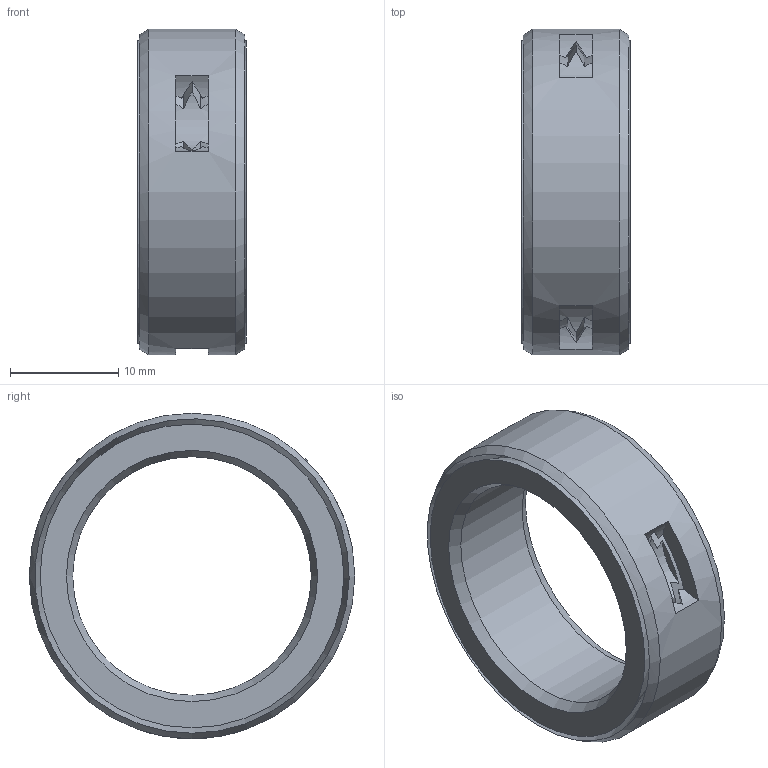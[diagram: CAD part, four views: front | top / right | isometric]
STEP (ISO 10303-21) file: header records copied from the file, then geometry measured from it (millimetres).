
FILE_DESCRIPTION(/* description */ (''),/* implementation_level */ '2;1');
FILE_NAME(/* name */ '301347 M 22x30x10.stp',/* time_stamp */ '2016-12-15T11:17:23+01:00',/* author */ (''),/* organization */ (''),/* preprocessor_version */ 'ST-DEVELOPER v15',/* originating_system */ 'SIEMENS PLM Software NX 8.5',/* authorisation */ '');
FILE_SCHEMA (('CONFIG_CONTROL_DESIGN'));
Length unit declared in the file: millimetre
Products named in the file (1): ATE0000124_01
Bounding box: 10 x 30 x 30 mm (x, y, z)
Volume: 2556.9 mm3; surface area: 3966.2 mm2
Topology: 2 solids, 2 shells, 47 faces, 143 edges, 94 vertices
Faces by surface type: cone 22, plane 14, cylinder 11
Full cylindrical faces by diameter (mm): 22 x1, 30 x1
Entity records: 1586 total; most frequent: CARTESIAN_POINT 390, ORIENTED_EDGE 236, DIRECTION 226, EDGE_CURVE 118, AXIS2_PLACEMENT_3D 110, VERTEX_POINT 82, CIRCLE 64, EDGE_LOOP 60
